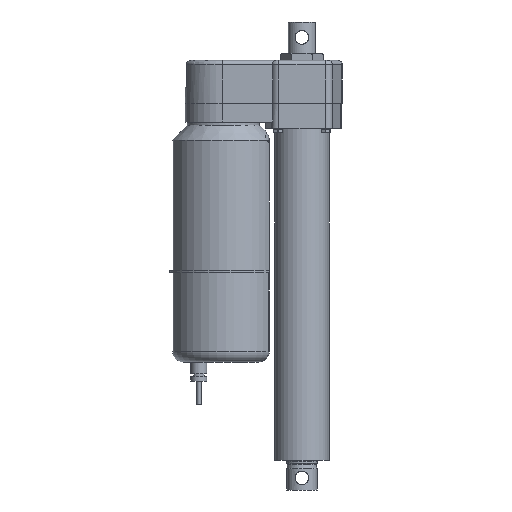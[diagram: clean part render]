
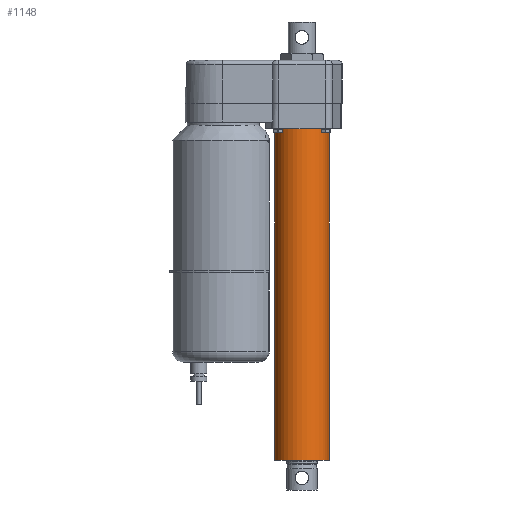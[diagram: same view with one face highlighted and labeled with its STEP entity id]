
A CAD part, left-side view. The second image highlights one B-rep face of the part: STEP entity #1148.
In plain terms, the highlighted cylindrical face has radius 25.65 mm (diameter 51.3 mm), a full revolution.
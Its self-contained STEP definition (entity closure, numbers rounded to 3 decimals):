
#1148 = ADVANCED_FACE ( 'NONE', ( #1587, #1584 ), #1590, .T. ) ;
#1416 = EDGE_CURVE ( 'NONE', #4698, #4698, #4132, .T. ) ;
#1417 = EDGE_CURVE ( 'NONE', #4700, #4700, #4133, .T. ) ;
#1584 = FACE_OUTER_BOUND ( 'NONE', #3143, .T. ) ;
#1587 = FACE_OUTER_BOUND ( 'NONE', #3212, .T. ) ;
#1590 = CYLINDRICAL_SURFACE ( 'NONE', #5530, 25.65 ) ;
#3143 = EDGE_LOOP ( 'NONE', ( #3775 ) ) ;
#3212 = EDGE_LOOP ( 'NONE', ( #3776 ) ) ;
#3615 = CARTESIAN_POINT ( 'NONE',  ( 0., 0., 0. ) ) ;
#3616 = CARTESIAN_POINT ( 'NONE',  ( 0., 0., 312.1 ) ) ;
#3629 = DIRECTION ( 'NONE',  ( 0., 0., -1. ) ) ;
#3630 = DIRECTION ( 'NONE',  ( 1., 0., 0. ) ) ;
#3632 = DIRECTION ( 'NONE',  ( 0., 0., 1. ) ) ;
#3633 = DIRECTION ( 'NONE',  ( 1., 0., 0. ) ) ;
#3775 = ORIENTED_EDGE ( 'NONE', *, *, #1417, .F. ) ;
#3776 = ORIENTED_EDGE ( 'NONE', *, *, #1416, .F. ) ;
#4132 = CIRCLE ( 'NONE', #5732, 25.65 ) ;
#4133 = CIRCLE ( 'NONE', #5737, 25.65 ) ;
#4698 = VERTEX_POINT ( 'NONE', #4699 ) ;
#4699 = CARTESIAN_POINT ( 'NONE',  ( 25.65, 0., 0. ) ) ;
#4700 = VERTEX_POINT ( 'NONE', #4701 ) ;
#4701 = CARTESIAN_POINT ( 'NONE',  ( 25.65, 0., 312.1 ) ) ;
#5134 = CARTESIAN_POINT ( 'NONE',  ( 0., 0., -72.549 ) ) ;
#5135 = DIRECTION ( 'NONE',  ( 0., 0., 1. ) ) ;
#5136 = DIRECTION ( 'NONE',  ( 1., 0., 0. ) ) ;
#5530 = AXIS2_PLACEMENT_3D ( 'NONE', #5134, #5135, #5136 ) ;
#5732 = AXIS2_PLACEMENT_3D ( 'NONE', #3615, #3629, #3630 ) ;
#5737 = AXIS2_PLACEMENT_3D ( 'NONE', #3616, #3632, #3633 ) ;
